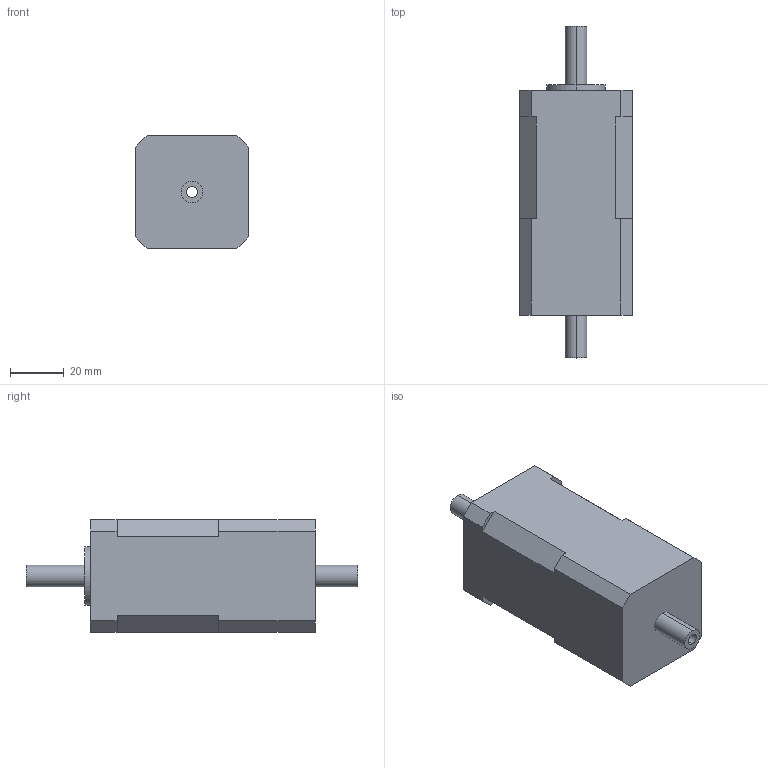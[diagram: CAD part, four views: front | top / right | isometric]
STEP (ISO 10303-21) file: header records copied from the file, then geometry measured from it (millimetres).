
FILE_DESCRIPTION (( 'STEP AP214' ), '1' );
FILE_NAME ('42HSM60-G0824-016.STEP', '2022-03-22T08:57:19', ( 'wimxt.com' ), ( 'wimxt.com' ), 'SwSTEP 2.0', 'SolidWorks 2014', '' );
FILE_SCHEMA (( 'AUTOMOTIVE_DESIGN' ));
Length unit declared in the file: millimetre
Products named in the file (1): 42HSM60-G0824-016
Bounding box: 42 x 124 x 42 mm (x, y, z)
Volume: 144566.3 mm3; surface area: 19479.3 mm2
Topology: 1 solids, 1 shells, 57 faces, 136 edges, 88 vertices
Faces by surface type: plane 33, cylinder 20, cone 4
Entity records: 1706 total; most frequent: DIRECTION 292, CARTESIAN_POINT 282, ORIENTED_EDGE 272, EDGE_CURVE 136, AXIS2_PLACEMENT_3D 98, LINE 96, VECTOR 96, VERTEX_POINT 88
